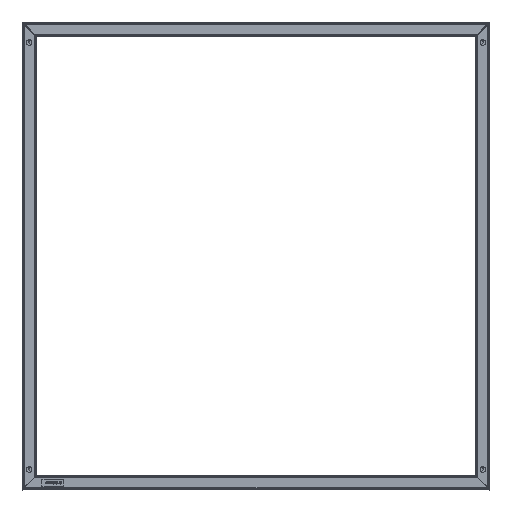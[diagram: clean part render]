
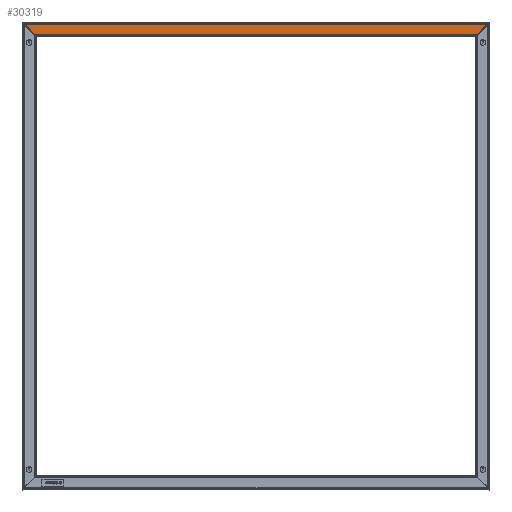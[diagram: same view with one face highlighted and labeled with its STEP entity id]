
A CAD part, top view. The second image highlights one B-rep face of the part: STEP entity #30319.
In plain terms, the highlighted planar face has unit normal (0, 0, 1).
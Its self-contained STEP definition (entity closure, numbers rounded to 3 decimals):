
#2097=LINE('',#45579,#5365);
#2098=LINE('',#45582,#5366);
#2099=LINE('',#45584,#5367);
#2100=LINE('',#45586,#5368);
#5365=VECTOR('',#35349,1000.);
#5366=VECTOR('',#35350,1000.);
#5367=VECTOR('',#35351,1000.);
#5368=VECTOR('',#35352,1000.);
#9047=ORIENTED_EDGE('',*,*,#18213,.F.);
#9048=ORIENTED_EDGE('',*,*,#18214,.F.);
#9049=ORIENTED_EDGE('',*,*,#18215,.T.);
#9050=ORIENTED_EDGE('',*,*,#18216,.T.);
#18213=EDGE_CURVE('',#22839,#22840,#2097,.T.);
#18214=EDGE_CURVE('',#22841,#22839,#2098,.T.);
#18215=EDGE_CURVE('',#22841,#22842,#2099,.T.);
#18216=EDGE_CURVE('',#22842,#22840,#2100,.T.);
#22839=VERTEX_POINT('',#45580);
#22840=VERTEX_POINT('',#45581);
#22841=VERTEX_POINT('',#45583);
#22842=VERTEX_POINT('',#45585);
#26049=EDGE_LOOP('',(#9047,#9048,#9049,#9050));
#27719=FACE_BOUND('',#26049,.T.);
#29345=PLANE('',#32173);
#30319=ADVANCED_FACE('',(#27719),#29345,.T.);
#32173=AXIS2_PLACEMENT_3D('',#45578,#35347,#35348);
#35347=DIRECTION('',(0.,0.,1.));
#35348=DIRECTION('',(0.,1.,0.));
#35349=DIRECTION('',(-0.707,0.707,0.));
#35350=DIRECTION('',(-1.,0.,0.));
#35351=DIRECTION('',(0.707,0.707,0.));
#35352=DIRECTION('',(-1.,0.,0.));
#45578=CARTESIAN_POINT('',(18.5,624.95,33.));
#45579=CARTESIAN_POINT('',(-1237.5,625.25,33.));
#45580=CARTESIAN_POINT('',(-1205.3,593.05,33.));
#45581=CARTESIAN_POINT('',(-1237.2,624.95,33.));
#45582=CARTESIAN_POINT('',(18.5,593.05,33.));
#45583=CARTESIAN_POINT('',(-13.7,593.05,33.));
#45584=CARTESIAN_POINT('',(-14.,592.75,33.));
#45585=CARTESIAN_POINT('',(18.2,624.95,33.));
#45586=CARTESIAN_POINT('',(18.5,624.95,33.));
